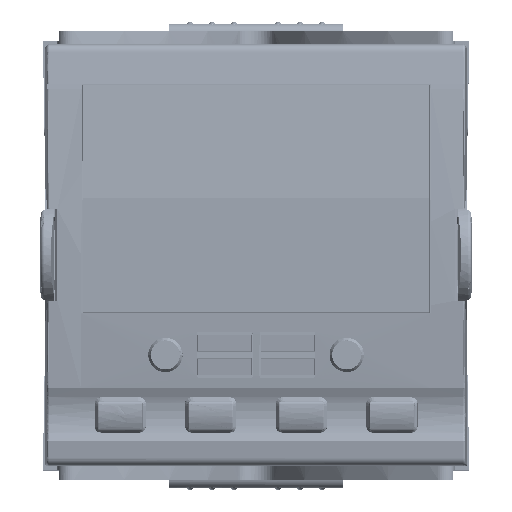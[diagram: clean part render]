
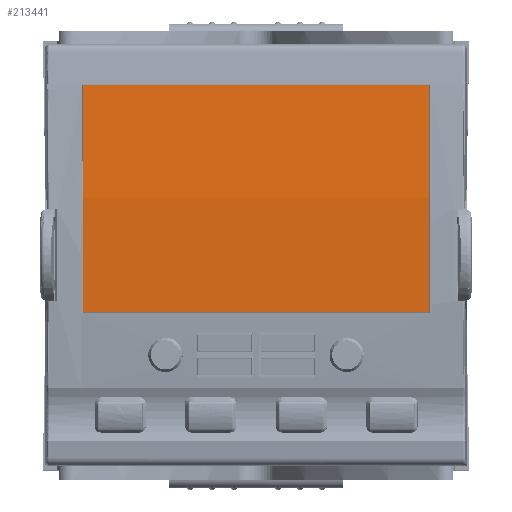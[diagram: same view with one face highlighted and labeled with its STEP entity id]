
A CAD part, top view. The second image highlights one B-rep face of the part: STEP entity #213441.
In plain terms, the highlighted cylindrical face has radius 140 mm (diameter 279.999 mm), a partial arc.
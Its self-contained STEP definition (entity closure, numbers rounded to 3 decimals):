
#202300=CARTESIAN_POINT('',(10.914,72.658,
106.318));
#202301=CARTESIAN_POINT('',(10.923,64.079,
107.378));
#202302=CARTESIAN_POINT('',(10.926,55.476,
107.642));
#202303=CARTESIAN_POINT('',(10.921,46.848,
107.109));
#202326=CARTESIAN_POINT('',(50.335,46.848,
107.11));
#202327=CARTESIAN_POINT('',(50.331,55.476,
107.643));
#202328=CARTESIAN_POINT('',(50.333,64.079,
107.379));
#202329=CARTESIAN_POINT('',(50.342,72.658,
106.319));
#202355=DIRECTION('',(-1.,0.,
0.));
#202356=VECTOR('',#202355,39.414);
#202357=CARTESIAN_POINT('',(50.335,46.848,
107.11));
#202358=LINE('',#202357,#202356);
#202359=DIRECTION('',(1.,0.,0.));
#202360=VECTOR('',#202359,39.428);
#202361=CARTESIAN_POINT('',(10.914,72.658,
106.318));
#202362=LINE('',#202361,#202360);
#204368=CARTESIAN_POINT('',(10.921,46.848,
107.109));
#204369=VERTEX_POINT('',#204368);
#204370=CARTESIAN_POINT('',(50.335,46.848,
107.11));
#204371=VERTEX_POINT('',#204370);
#204374=CARTESIAN_POINT('',(10.914,72.658,
106.318));
#204375=VERTEX_POINT('',#204374);
#204376=CARTESIAN_POINT('',(50.342,72.658,
106.319));
#204377=VERTEX_POINT('',#204376);
#213430=CARTESIAN_POINT('',(10.128,55.479,
-32.624));
#213431=DIRECTION('',(1.,0.,0.));
#213432=DIRECTION('',(0.,0.123,0.992));
#213433=AXIS2_PLACEMENT_3D('',#213430,#213431,#213432);
#213434=CYLINDRICAL_SURFACE('',#213433,140.);
#213435=ORIENTED_EDGE('',*,*,#213411,.F.);
#213436=ORIENTED_EDGE('',*,*,#213276,.T.);
#213437=ORIENTED_EDGE('',*,*,#213383,.F.);
#213438=ORIENTED_EDGE('',*,*,#213396,.T.);
#213439=EDGE_LOOP('',(#213435,#213436,#213437,#213438));
#213440=FACE_OUTER_BOUND('',#213439,.F.);
#202304=B_SPLINE_CURVE_WITH_KNOTS('',3,(#202300,#202301,#202302,#202303),
.UNSPECIFIED.,.F.,.F.,(4,4),(0.,1.),.UNSPECIFIED.);
#202330=B_SPLINE_CURVE_WITH_KNOTS('',3,(#202326,#202327,#202328,#202329),
.UNSPECIFIED.,.F.,.F.,(4,4),(0.,1.),.UNSPECIFIED.);
#213276=EDGE_CURVE('',#204371,#204369,#202358,.T.);
#213383=EDGE_CURVE('',#204375,#204369,#202304,.T.);
#213396=EDGE_CURVE('',#204375,#204377,#202362,.T.);
#213411=EDGE_CURVE('',#204371,#204377,#202330,.T.);
#213441=ADVANCED_FACE('',(#213440),#213434,.T.);
